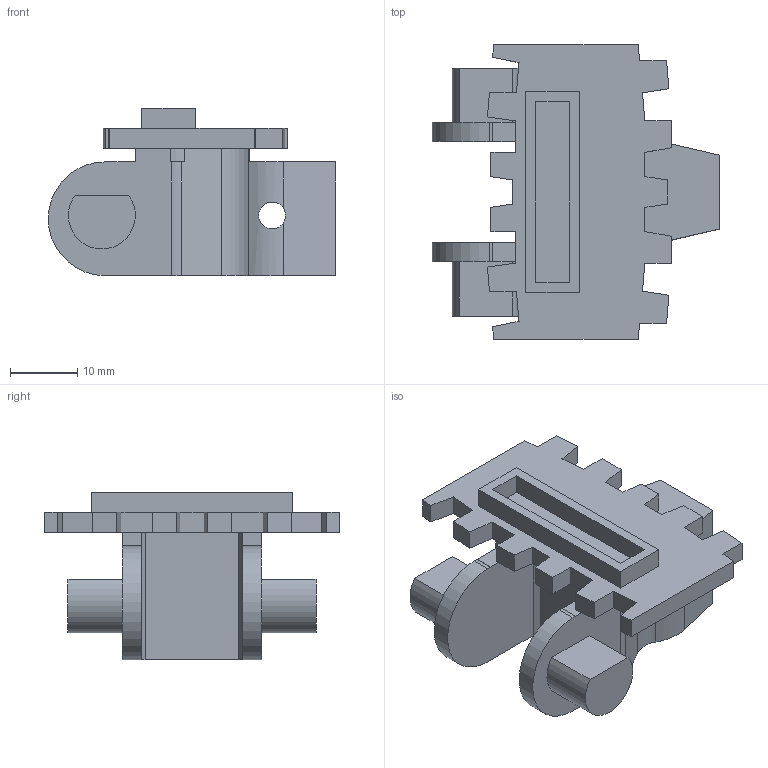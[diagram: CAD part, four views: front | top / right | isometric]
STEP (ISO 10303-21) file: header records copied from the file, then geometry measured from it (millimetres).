
FILE_DESCRIPTION (( 'STEP AP214' ), '1' );
FILE_NAME ('FKTF 5x3D-P.STEP', '2011-09-28T06:57:30', ( '.' ), ( '' ), 'SwSTEP 2.0', 'SolidWorks 2010', '' );
FILE_SCHEMA (( 'AUTOMOTIVE_DESIGN' ));
Length unit declared in the file: millimetre
Products named in the file (1): FKTF 5x3D-P
Bounding box: 42.9 x 44 x 25 mm (x, y, z)
Volume: 12149.8 mm3; surface area: 6840.6 mm2
Topology: 1 solids, 1 shells, 102 faces, 291 edges, 194 vertices
Faces by surface type: plane 85, cylinder 17
Entity records: 3405 total; most frequent: CARTESIAN_POINT 686, ORIENTED_EDGE 582, DIRECTION 521, EDGE_CURVE 291, LINE 251, VECTOR 251, VERTEX_POINT 194, AXIS2_PLACEMENT_3D 135
